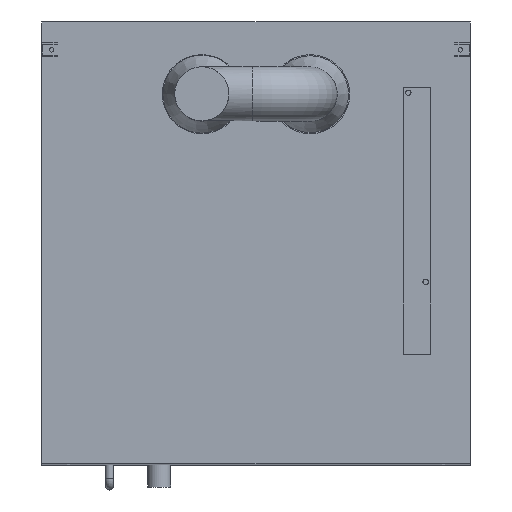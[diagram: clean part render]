
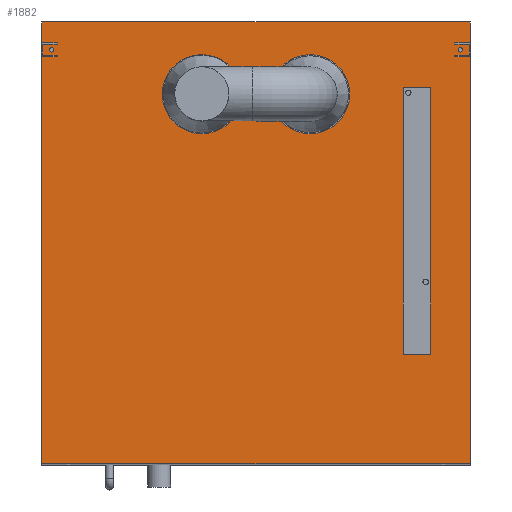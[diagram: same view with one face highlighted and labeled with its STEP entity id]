
A CAD part, top view. The second image highlights one B-rep face of the part: STEP entity #1882.
In plain terms, the highlighted planar face has unit normal (0, 0, 1).
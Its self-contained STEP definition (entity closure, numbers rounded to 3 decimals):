
#44=LINE('',#2482,#176);
#45=LINE('',#2485,#177);
#46=LINE('',#2487,#178);
#47=LINE('',#2489,#179);
#48=LINE('',#2490,#180);
#49=LINE('',#2493,#181);
#50=LINE('',#2495,#182);
#51=LINE('',#2497,#183);
#52=LINE('',#2499,#184);
#53=LINE('',#2501,#185);
#54=LINE('',#2503,#186);
#55=LINE('',#2505,#187);
#56=LINE('',#2507,#188);
#57=LINE('',#2509,#189);
#58=LINE('',#2511,#190);
#59=LINE('',#2513,#191);
#60=LINE('',#2515,#192);
#61=LINE('',#2517,#193);
#62=LINE('',#2519,#194);
#63=LINE('',#2521,#195);
#64=LINE('',#2523,#196);
#65=LINE('',#2525,#197);
#66=LINE('',#2527,#198);
#67=LINE('',#2529,#199);
#176=VECTOR('',#2109,1000.);
#177=VECTOR('',#2110,1000.);
#178=VECTOR('',#2111,1000.);
#179=VECTOR('',#2112,1000.);
#180=VECTOR('',#2113,1000.);
#181=VECTOR('',#2114,1000.);
#182=VECTOR('',#2115,1000.);
#183=VECTOR('',#2116,1000.);
#184=VECTOR('',#2117,1000.);
#185=VECTOR('',#2118,1000.);
#186=VECTOR('',#2119,1000.);
#187=VECTOR('',#2120,1000.);
#188=VECTOR('',#2121,1000.);
#189=VECTOR('',#2122,1000.);
#190=VECTOR('',#2123,1000.);
#191=VECTOR('',#2124,1000.);
#192=VECTOR('',#2125,1000.);
#193=VECTOR('',#2126,1000.);
#194=VECTOR('',#2127,1000.);
#195=VECTOR('',#2128,1000.);
#196=VECTOR('',#2129,1000.);
#197=VECTOR('',#2130,1000.);
#198=VECTOR('',#2131,1000.);
#199=VECTOR('',#2132,1000.);
#310=ORIENTED_EDGE('',*,*,#648,.T.);
#311=ORIENTED_EDGE('',*,*,#649,.T.);
#312=ORIENTED_EDGE('',*,*,#650,.T.);
#313=ORIENTED_EDGE('',*,*,#651,.T.);
#314=ORIENTED_EDGE('',*,*,#652,.F.);
#315=ORIENTED_EDGE('',*,*,#653,.F.);
#316=ORIENTED_EDGE('',*,*,#654,.F.);
#317=ORIENTED_EDGE('',*,*,#655,.F.);
#318=ORIENTED_EDGE('',*,*,#656,.T.);
#319=ORIENTED_EDGE('',*,*,#657,.F.);
#320=ORIENTED_EDGE('',*,*,#658,.T.);
#321=ORIENTED_EDGE('',*,*,#659,.T.);
#322=ORIENTED_EDGE('',*,*,#660,.T.);
#323=ORIENTED_EDGE('',*,*,#661,.T.);
#324=ORIENTED_EDGE('',*,*,#662,.T.);
#325=ORIENTED_EDGE('',*,*,#663,.T.);
#326=ORIENTED_EDGE('',*,*,#664,.T.);
#327=ORIENTED_EDGE('',*,*,#665,.T.);
#328=ORIENTED_EDGE('',*,*,#666,.T.);
#329=ORIENTED_EDGE('',*,*,#667,.T.);
#330=ORIENTED_EDGE('',*,*,#668,.F.);
#331=ORIENTED_EDGE('',*,*,#669,.F.);
#332=ORIENTED_EDGE('',*,*,#670,.T.);
#333=ORIENTED_EDGE('',*,*,#671,.T.);
#334=ORIENTED_EDGE('',*,*,#672,.T.);
#335=ORIENTED_EDGE('',*,*,#673,.T.);
#336=ORIENTED_EDGE('',*,*,#674,.T.);
#337=ORIENTED_EDGE('',*,*,#675,.T.);
#648=EDGE_CURVE('',#817,#817,#942,.T.);
#649=EDGE_CURVE('',#818,#818,#943,.T.);
#650=EDGE_CURVE('',#819,#819,#944,.T.);
#651=EDGE_CURVE('',#820,#820,#945,.T.);
#652=EDGE_CURVE('',#821,#822,#44,.T.);
#653=EDGE_CURVE('',#823,#821,#45,.T.);
#654=EDGE_CURVE('',#824,#823,#46,.T.);
#655=EDGE_CURVE('',#822,#824,#47,.T.);
#656=EDGE_CURVE('',#825,#826,#48,.T.);
#657=EDGE_CURVE('',#827,#826,#49,.T.);
#658=EDGE_CURVE('',#827,#828,#50,.T.);
#659=EDGE_CURVE('',#828,#829,#51,.T.);
#660=EDGE_CURVE('',#829,#830,#52,.T.);
#661=EDGE_CURVE('',#830,#831,#53,.T.);
#662=EDGE_CURVE('',#831,#832,#54,.T.);
#663=EDGE_CURVE('',#832,#833,#55,.T.);
#664=EDGE_CURVE('',#833,#834,#56,.T.);
#665=EDGE_CURVE('',#834,#835,#57,.T.);
#666=EDGE_CURVE('',#835,#836,#58,.T.);
#667=EDGE_CURVE('',#836,#837,#59,.T.);
#668=EDGE_CURVE('',#838,#837,#60,.T.);
#669=EDGE_CURVE('',#839,#838,#61,.T.);
#670=EDGE_CURVE('',#839,#840,#62,.T.);
#671=EDGE_CURVE('',#840,#841,#63,.T.);
#672=EDGE_CURVE('',#841,#842,#64,.T.);
#673=EDGE_CURVE('',#842,#843,#65,.T.);
#674=EDGE_CURVE('',#843,#844,#66,.T.);
#675=EDGE_CURVE('',#844,#825,#67,.T.);
#817=VERTEX_POINT('',#2475);
#818=VERTEX_POINT('',#2477);
#819=VERTEX_POINT('',#2479);
#820=VERTEX_POINT('',#2481);
#821=VERTEX_POINT('',#2483);
#822=VERTEX_POINT('',#2484);
#823=VERTEX_POINT('',#2486);
#824=VERTEX_POINT('',#2488);
#825=VERTEX_POINT('',#2491);
#826=VERTEX_POINT('',#2492);
#827=VERTEX_POINT('',#2494);
#828=VERTEX_POINT('',#2496);
#829=VERTEX_POINT('',#2498);
#830=VERTEX_POINT('',#2500);
#831=VERTEX_POINT('',#2502);
#832=VERTEX_POINT('',#2504);
#833=VERTEX_POINT('',#2506);
#834=VERTEX_POINT('',#2508);
#835=VERTEX_POINT('',#2510);
#836=VERTEX_POINT('',#2512);
#837=VERTEX_POINT('',#2514);
#838=VERTEX_POINT('',#2516);
#839=VERTEX_POINT('',#2518);
#840=VERTEX_POINT('',#2520);
#841=VERTEX_POINT('',#2522);
#842=VERTEX_POINT('',#2524);
#843=VERTEX_POINT('',#2526);
#844=VERTEX_POINT('',#2528);
#942=CIRCLE('',#1974,54.75);
#943=CIRCLE('',#1975,54.75);
#944=CIRCLE('',#1976,3.1);
#945=CIRCLE('',#1977,3.1);
#977=EDGE_LOOP('',(#310));
#978=EDGE_LOOP('',(#311));
#979=EDGE_LOOP('',(#312));
#980=EDGE_LOOP('',(#313));
#981=EDGE_LOOP('',(#314,#315,#316,#317));
#982=EDGE_LOOP('',(#318,#319,#320,#321,#322,#323,#324,#325,#326,#327,#328,
#329,#330,#331,#332,#333,#334,#335,#336,#337));
#1103=FACE_BOUND('',#977,.T.);
#1104=FACE_BOUND('',#978,.T.);
#1105=FACE_BOUND('',#979,.T.);
#1106=FACE_BOUND('',#980,.T.);
#1107=FACE_BOUND('',#981,.T.);
#1108=FACE_BOUND('',#982,.T.);
#1228=PLANE('',#1973);
#1882=ADVANCED_FACE('',(#1103,#1104,#1105,#1106,#1107,#1108),#1228,.F.);
#1973=AXIS2_PLACEMENT_3D('',#2473,#2099,#2100);
#1974=AXIS2_PLACEMENT_3D('',#2474,#2101,#2102);
#1975=AXIS2_PLACEMENT_3D('',#2476,#2103,#2104);
#1976=AXIS2_PLACEMENT_3D('',#2478,#2105,#2106);
#1977=AXIS2_PLACEMENT_3D('',#2480,#2107,#2108);
#2099=DIRECTION('',(0.,0.,-1.));
#2100=DIRECTION('',(-1.,0.,0.));
#2101=DIRECTION('',(0.,0.,-1.));
#2102=DIRECTION('',(-1.,0.,0.));
#2103=DIRECTION('',(0.,0.,-1.));
#2104=DIRECTION('',(-1.,0.,0.));
#2105=DIRECTION('',(0.,0.,-1.));
#2106=DIRECTION('',(1.,0.,0.));
#2107=DIRECTION('',(0.,0.,-1.));
#2108=DIRECTION('',(1.,0.,0.));
#2109=DIRECTION('',(1.,0.,0.));
#2110=DIRECTION('',(0.,-1.,0.));
#2111=DIRECTION('',(-1.,0.,0.));
#2112=DIRECTION('',(0.,1.,0.));
#2113=DIRECTION('',(1.,0.,0.));
#2114=DIRECTION('',(0.,-1.,0.));
#2115=DIRECTION('',(-1.,0.,0.));
#2116=DIRECTION('',(0.,-1.,0.));
#2117=DIRECTION('',(1.,0.,0.));
#2118=DIRECTION('',(0.,-1.,0.));
#2119=DIRECTION('',(-1.,0.,0.));
#2120=DIRECTION('',(0.,-1.,0.));
#2121=DIRECTION('',(1.,0.,0.));
#2122=DIRECTION('',(0.,-1.,0.));
#2123=DIRECTION('',(-1.,0.,0.));
#2124=DIRECTION('',(0.,-1.,0.));
#2125=DIRECTION('',(-1.,0.,0.));
#2126=DIRECTION('',(0.,-1.,0.));
#2127=DIRECTION('',(-1.,0.,0.));
#2128=DIRECTION('',(0.,1.,0.));
#2129=DIRECTION('',(1.,0.,0.));
#2130=DIRECTION('',(0.,1.,0.));
#2131=DIRECTION('',(-1.,0.,0.));
#2132=DIRECTION('',(0.,1.,0.));
#2473=CARTESIAN_POINT('',(594.,612.,1385.));
#2474=CARTESIAN_POINT('',(222.,512.,1385.));
#2475=CARTESIAN_POINT('',(167.25,512.,1385.));
#2476=CARTESIAN_POINT('',(372.,512.,1385.));
#2477=CARTESIAN_POINT('',(317.25,512.,1385.));
#2478=CARTESIAN_POINT('',(14.,573.5,1385.));
#2479=CARTESIAN_POINT('',(17.1,573.5,1385.));
#2480=CARTESIAN_POINT('',(580.,573.5,1385.));
#2481=CARTESIAN_POINT('',(583.1,573.5,1385.));
#2482=CARTESIAN_POINT('',(501.,152.,1385.));
#2483=CARTESIAN_POINT('',(501.,152.,1385.));
#2484=CARTESIAN_POINT('',(539.,152.,1385.));
#2485=CARTESIAN_POINT('',(501.,521.,1385.));
#2486=CARTESIAN_POINT('',(501.,521.,1385.));
#2487=CARTESIAN_POINT('',(539.,521.,1385.));
#2488=CARTESIAN_POINT('',(539.,521.,1385.));
#2489=CARTESIAN_POINT('',(539.,152.,1385.));
#2490=CARTESIAN_POINT('',(594.,583.,1385.));
#2491=CARTESIAN_POINT('',(572.5,583.,1385.));
#2492=CARTESIAN_POINT('',(594.,583.,1385.));
#2493=CARTESIAN_POINT('',(594.,612.,1385.));
#2494=CARTESIAN_POINT('',(594.,612.,1385.));
#2495=CARTESIAN_POINT('',(594.,612.,1385.));
#2496=CARTESIAN_POINT('',(0.,612.,1385.));
#2497=CARTESIAN_POINT('',(0.,612.,1385.));
#2498=CARTESIAN_POINT('',(0.,583.,1385.));
#2499=CARTESIAN_POINT('',(594.,583.,1385.));
#2500=CARTESIAN_POINT('',(21.5,583.,1385.));
#2501=CARTESIAN_POINT('',(21.5,612.,1385.));
#2502=CARTESIAN_POINT('',(21.5,581.,1385.));
#2503=CARTESIAN_POINT('',(21.5,581.,1385.));
#2504=CARTESIAN_POINT('',(1.5,581.,1385.));
#2505=CARTESIAN_POINT('',(1.5,581.,1385.));
#2506=CARTESIAN_POINT('',(1.5,566.,1385.));
#2507=CARTESIAN_POINT('',(1.5,566.,1385.));
#2508=CARTESIAN_POINT('',(21.5,566.,1385.));
#2509=CARTESIAN_POINT('',(21.5,566.,1385.));
#2510=CARTESIAN_POINT('',(21.5,564.,1385.));
#2511=CARTESIAN_POINT('',(21.5,564.,1385.));
#2512=CARTESIAN_POINT('',(0.,564.,1385.));
#2513=CARTESIAN_POINT('',(0.,612.,1385.));
#2514=CARTESIAN_POINT('',(0.,0.,1385.));
#2515=CARTESIAN_POINT('',(594.,0.,1385.));
#2516=CARTESIAN_POINT('',(594.,0.,1385.));
#2517=CARTESIAN_POINT('',(594.,612.,1385.));
#2518=CARTESIAN_POINT('',(594.,564.,1385.));
#2519=CARTESIAN_POINT('',(594.,564.,1385.));
#2520=CARTESIAN_POINT('',(572.5,564.,1385.));
#2521=CARTESIAN_POINT('',(572.5,566.,1385.));
#2522=CARTESIAN_POINT('',(572.5,566.,1385.));
#2523=CARTESIAN_POINT('',(594.,566.,1385.));
#2524=CARTESIAN_POINT('',(592.5,566.,1385.));
#2525=CARTESIAN_POINT('',(592.5,581.,1385.));
#2526=CARTESIAN_POINT('',(592.5,581.,1385.));
#2527=CARTESIAN_POINT('',(594.,581.,1385.));
#2528=CARTESIAN_POINT('',(572.5,581.,1385.));
#2529=CARTESIAN_POINT('',(572.5,612.,1385.));
